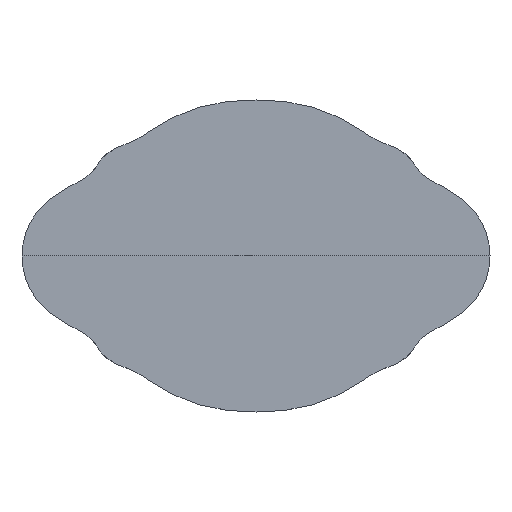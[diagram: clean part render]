
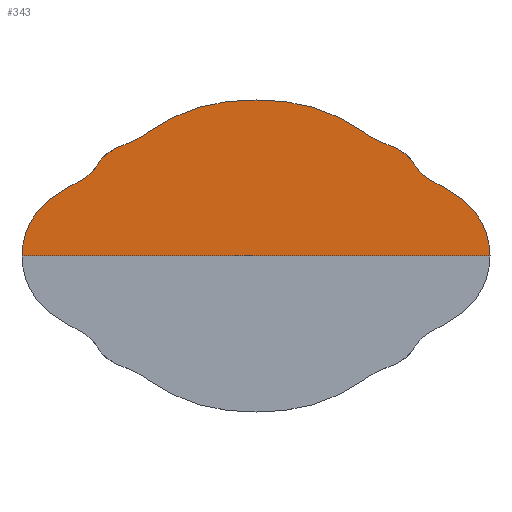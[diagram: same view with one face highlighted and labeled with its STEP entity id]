
A CAD part, top view. The second image highlights one B-rep face of the part: STEP entity #343.
In plain terms, the highlighted planar face has unit normal (0, 0, 1).
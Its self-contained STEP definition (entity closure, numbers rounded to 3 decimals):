
#343=ADVANCED_FACE($,(#661),#4411,.T.);
#661=FACE_OUTER_BOUND($,#987,.T.);
#987=EDGE_LOOP($,(#2589,#2590,#2591,#2592,#2593,#2594,#2595,#2596,#2597,
#2598,#2599,#2600,#2601,#2602,#2603));
#2589=ORIENTED_EDGE($,*,*,#3502,.T.);
#2590=ORIENTED_EDGE($,*,*,#3494,.T.);
#2591=ORIENTED_EDGE($,*,*,#3491,.F.);
#2592=ORIENTED_EDGE($,*,*,#3488,.T.);
#2593=ORIENTED_EDGE($,*,*,#3485,.F.);
#2594=ORIENTED_EDGE($,*,*,#3482,.T.);
#2595=ORIENTED_EDGE($,*,*,#3479,.T.);
#2596=ORIENTED_EDGE($,*,*,#3476,.T.);
#2597=ORIENTED_EDGE($,*,*,#3473,.T.);
#2598=ORIENTED_EDGE($,*,*,#3470,.F.);
#2599=ORIENTED_EDGE($,*,*,#3467,.T.);
#2600=ORIENTED_EDGE($,*,*,#3464,.F.);
#2601=ORIENTED_EDGE($,*,*,#3461,.T.);
#2602=ORIENTED_EDGE($,*,*,#3459,.T.);
#2603=ORIENTED_EDGE($,*,*,#3498,.F.);
#3459=EDGE_CURVE($,#4040,#4069,#5204,.T.);
#3461=EDGE_CURVE($,#4042,#4040,#5205,.T.);
#3464=EDGE_CURVE($,#4042,#4044,#5207,.T.);
#3467=EDGE_CURVE($,#4046,#4044,#5209,.T.);
#3470=EDGE_CURVE($,#4046,#4048,#5211,.T.);
#3473=EDGE_CURVE($,#4050,#4048,#5213,.T.);
#3476=EDGE_CURVE($,#4052,#4050,#5215,.T.);
#3479=EDGE_CURVE($,#4054,#4052,#5217,.T.);
#3482=EDGE_CURVE($,#4056,#4054,#5219,.T.);
#3485=EDGE_CURVE($,#4056,#4058,#5221,.T.);
#3488=EDGE_CURVE($,#4060,#4058,#5223,.T.);
#3491=EDGE_CURVE($,#4060,#4062,#5225,.T.);
#3494=EDGE_CURVE($,#4064,#4062,#5227,.T.);
#3498=EDGE_CURVE($,#4068,#4069,#4751,.T.);
#3502=EDGE_CURVE($,#4068,#4064,#5231,.T.);
#4040=VERTEX_POINT($,#11572);
#4042=VERTEX_POINT($,#11574);
#4044=VERTEX_POINT($,#11576);
#4046=VERTEX_POINT($,#11578);
#4048=VERTEX_POINT($,#11580);
#4050=VERTEX_POINT($,#11582);
#4052=VERTEX_POINT($,#11584);
#4054=VERTEX_POINT($,#11586);
#4056=VERTEX_POINT($,#11588);
#4058=VERTEX_POINT($,#11590);
#4060=VERTEX_POINT($,#11592);
#4062=VERTEX_POINT($,#11594);
#4064=VERTEX_POINT($,#11596);
#4068=VERTEX_POINT($,#11600);
#4069=VERTEX_POINT($,#11601);
#4411=PLANE($,#5399);
#4751=B_SPLINE_CURVE_WITH_KNOTS($,3,(#11272,#11273,#11274,#11275),.UNSPECIFIED.,
.F.,.F.,(4,4),(0.,1499.553),.UNSPECIFIED.);
#5204=(
BOUNDED_CURVE()
B_SPLINE_CURVE(2,(#11166,#11167,#11168),.UNSPECIFIED.,.F.,.F.)
B_SPLINE_CURVE_WITH_KNOTS((3,3),(0.,216.137),.UNSPECIFIED.)
CURVE()
GEOMETRIC_REPRESENTATION_ITEM()
RATIONAL_B_SPLINE_CURVE((1.,0.892,1.))
REPRESENTATION_ITEM($)
);
#5205=(
BOUNDED_CURVE()
B_SPLINE_CURVE(2,(#11171,#11172,#11173),.UNSPECIFIED.,.F.,.F.)
B_SPLINE_CURVE_WITH_KNOTS((3,3),(0.,108.246),.UNSPECIFIED.)
CURVE()
GEOMETRIC_REPRESENTATION_ITEM()
RATIONAL_B_SPLINE_CURVE((1.,0.995,1.))
REPRESENTATION_ITEM($)
);
#5207=(
BOUNDED_CURVE()
B_SPLINE_CURVE(2,(#11179,#11180,#11181),.UNSPECIFIED.,.F.,.F.)
B_SPLINE_CURVE_WITH_KNOTS((3,3),(-70.899,0.),.UNSPECIFIED.)
CURVE()
GEOMETRIC_REPRESENTATION_ITEM()
RATIONAL_B_SPLINE_CURVE((1.,0.957,1.))
REPRESENTATION_ITEM($)
);
#5209=(
BOUNDED_CURVE()
B_SPLINE_CURVE(2,(#11187,#11188,#11189),.UNSPECIFIED.,.F.,.F.)
B_SPLINE_CURVE_WITH_KNOTS((3,3),(0.,106.787),.UNSPECIFIED.)
CURVE()
GEOMETRIC_REPRESENTATION_ITEM()
RATIONAL_B_SPLINE_CURVE((1.,0.937,1.))
REPRESENTATION_ITEM($)
);
#5211=(
BOUNDED_CURVE()
B_SPLINE_CURVE(2,(#11195,#11196,#11197),.UNSPECIFIED.,.F.,.F.)
B_SPLINE_CURVE_WITH_KNOTS((3,3),(-96.103,0.),.UNSPECIFIED.)
CURVE()
GEOMETRIC_REPRESENTATION_ITEM()
RATIONAL_B_SPLINE_CURVE((1.,0.988,1.))
REPRESENTATION_ITEM($)
);
#5213=(
BOUNDED_CURVE()
B_SPLINE_CURVE(2,(#11203,#11204,#11205),.UNSPECIFIED.,.F.,.F.)
B_SPLINE_CURVE_WITH_KNOTS((3,3),(0.,273.602),.UNSPECIFIED.)
CURVE()
GEOMETRIC_REPRESENTATION_ITEM()
RATIONAL_B_SPLINE_CURVE((1.,0.967,1.))
REPRESENTATION_ITEM($)
);
#5215=(
BOUNDED_CURVE()
B_SPLINE_CURVE(2,(#11211,#11212,#11213),.UNSPECIFIED.,.F.,.F.)
B_SPLINE_CURVE_WITH_KNOTS((3,3),(0.,92.202),.UNSPECIFIED.)
CURVE()
GEOMETRIC_REPRESENTATION_ITEM()
RATIONAL_B_SPLINE_CURVE((1.,0.998,1.))
REPRESENTATION_ITEM($)
);
#5217=(
BOUNDED_CURVE()
B_SPLINE_CURVE(2,(#11219,#11220,#11221),.UNSPECIFIED.,.F.,.F.)
B_SPLINE_CURVE_WITH_KNOTS((3,3),(0.,92.202),.UNSPECIFIED.)
CURVE()
GEOMETRIC_REPRESENTATION_ITEM()
RATIONAL_B_SPLINE_CURVE((1.,0.998,1.))
REPRESENTATION_ITEM($)
);
#5219=(
BOUNDED_CURVE()
B_SPLINE_CURVE(2,(#11227,#11228,#11229),.UNSPECIFIED.,.F.,.F.)
B_SPLINE_CURVE_WITH_KNOTS((3,3),(0.,273.602),.UNSPECIFIED.)
CURVE()
GEOMETRIC_REPRESENTATION_ITEM()
RATIONAL_B_SPLINE_CURVE((1.,0.967,1.))
REPRESENTATION_ITEM($)
);
#5221=(
BOUNDED_CURVE()
B_SPLINE_CURVE(2,(#11235,#11236,#11237),.UNSPECIFIED.,.F.,.F.)
B_SPLINE_CURVE_WITH_KNOTS((3,3),(-96.103,0.),.UNSPECIFIED.)
CURVE()
GEOMETRIC_REPRESENTATION_ITEM()
RATIONAL_B_SPLINE_CURVE((1.,0.988,1.))
REPRESENTATION_ITEM($)
);
#5223=(
BOUNDED_CURVE()
B_SPLINE_CURVE(2,(#11243,#11244,#11245),.UNSPECIFIED.,.F.,.F.)
B_SPLINE_CURVE_WITH_KNOTS((3,3),(0.,106.787),.UNSPECIFIED.)
CURVE()
GEOMETRIC_REPRESENTATION_ITEM()
RATIONAL_B_SPLINE_CURVE((1.,0.937,1.))
REPRESENTATION_ITEM($)
);
#5225=(
BOUNDED_CURVE()
B_SPLINE_CURVE(2,(#11251,#11252,#11253),.UNSPECIFIED.,.F.,.F.)
B_SPLINE_CURVE_WITH_KNOTS((3,3),(-70.899,0.),.UNSPECIFIED.)
CURVE()
GEOMETRIC_REPRESENTATION_ITEM()
RATIONAL_B_SPLINE_CURVE((1.,0.957,1.))
REPRESENTATION_ITEM($)
);
#5227=(
BOUNDED_CURVE()
B_SPLINE_CURVE(2,(#11259,#11260,#11261),.UNSPECIFIED.,.F.,.F.)
B_SPLINE_CURVE_WITH_KNOTS((3,3),(0.,108.246),.UNSPECIFIED.)
CURVE()
GEOMETRIC_REPRESENTATION_ITEM()
RATIONAL_B_SPLINE_CURVE((1.,0.995,1.))
REPRESENTATION_ITEM($)
);
#5231=(
BOUNDED_CURVE()
B_SPLINE_CURVE(2,(#11287,#11288,#11289),.UNSPECIFIED.,.F.,.F.)
B_SPLINE_CURVE_WITH_KNOTS((3,3),(6.001,222.138),.UNSPECIFIED.)
CURVE()
GEOMETRIC_REPRESENTATION_ITEM()
RATIONAL_B_SPLINE_CURVE((1.,0.892,1.))
REPRESENTATION_ITEM($)
);
#5399=AXIS2_PLACEMENT_3D($,#11473,#5456,$);
#5456=DIRECTION($,(0.,0.,1.));
#11166=CARTESIAN_POINT($,(-762.068,249.355,510.689));
#11167=CARTESIAN_POINT($,(-856.216,180.302,510.689));
#11168=CARTESIAN_POINT($,(-856.216,63.545,510.689));
#11171=CARTESIAN_POINT($,(-669.235,304.708,510.689));
#11172=CARTESIAN_POINT($,(-718.293,281.462,510.689));
#11173=CARTESIAN_POINT($,(-762.068,249.355,510.689));
#11179=CARTESIAN_POINT($,(-669.235,304.708,510.689));
#11180=CARTESIAN_POINT($,(-636.234,320.345,510.689));
#11181=CARTESIAN_POINT($,(-617.538,351.715,510.689));
#11187=CARTESIAN_POINT($,(-536.073,417.239,510.689));
#11188=CARTESIAN_POINT($,(-588.987,399.621,510.689));
#11189=CARTESIAN_POINT($,(-617.538,351.715,510.689));
#11195=CARTESIAN_POINT($,(-536.073,417.239,510.689));
#11196=CARTESIAN_POINT($,(-490.128,432.537,510.689));
#11197=CARTESIAN_POINT($,(-450.874,460.894,510.689));
#11203=CARTESIAN_POINT($,(-198.45,558.396,510.689));
#11204=CARTESIAN_POINT($,(-337.474,542.815,510.689));
#11205=CARTESIAN_POINT($,(-450.874,460.894,510.689));
#11211=CARTESIAN_POINT($,(-106.44,563.548,510.689));
#11212=CARTESIAN_POINT($,(-152.588,563.535,510.689));
#11213=CARTESIAN_POINT($,(-198.45,558.396,510.689));
#11219=CARTESIAN_POINT($,(-14.43,558.396,510.689));
#11220=CARTESIAN_POINT($,(-60.291,563.535,510.689));
#11221=CARTESIAN_POINT($,(-106.44,563.548,510.689));
#11227=CARTESIAN_POINT($,(237.995,460.894,510.689));
#11228=CARTESIAN_POINT($,(124.595,542.815,510.689));
#11229=CARTESIAN_POINT($,(-14.43,558.396,510.689));
#11235=CARTESIAN_POINT($,(237.995,460.894,510.689));
#11236=CARTESIAN_POINT($,(277.249,432.537,510.689));
#11237=CARTESIAN_POINT($,(323.194,417.239,510.689));
#11243=CARTESIAN_POINT($,(404.659,351.715,510.689));
#11244=CARTESIAN_POINT($,(376.107,399.621,510.689));
#11245=CARTESIAN_POINT($,(323.194,417.239,510.689));
#11251=CARTESIAN_POINT($,(404.659,351.715,510.689));
#11252=CARTESIAN_POINT($,(423.355,320.345,510.689));
#11253=CARTESIAN_POINT($,(456.356,304.708,510.689));
#11259=CARTESIAN_POINT($,(549.189,249.355,510.689));
#11260=CARTESIAN_POINT($,(505.414,281.462,510.689));
#11261=CARTESIAN_POINT($,(456.356,304.708,510.689));
#11272=CARTESIAN_POINT($,(643.337,63.545,510.689));
#11273=CARTESIAN_POINT($,(143.486,63.545,510.689));
#11274=CARTESIAN_POINT($,(-356.365,63.545,510.689));
#11275=CARTESIAN_POINT($,(-856.216,63.545,510.689));
#11287=CARTESIAN_POINT($,(643.337,63.545,510.689));
#11288=CARTESIAN_POINT($,(643.337,180.302,510.689));
#11289=CARTESIAN_POINT($,(549.189,249.355,510.689));
#11473=CARTESIAN_POINT($,(-856.216,63.545,510.689));
#11572=CARTESIAN_POINT($,(-762.068,249.355,510.689));
#11574=CARTESIAN_POINT($,(-669.235,304.708,510.689));
#11576=CARTESIAN_POINT($,(-617.538,351.715,510.689));
#11578=CARTESIAN_POINT($,(-536.073,417.239,510.689));
#11580=CARTESIAN_POINT($,(-450.874,460.894,510.689));
#11582=CARTESIAN_POINT($,(-198.45,558.396,510.689));
#11584=CARTESIAN_POINT($,(-106.44,563.548,510.689));
#11586=CARTESIAN_POINT($,(-14.43,558.396,510.689));
#11588=CARTESIAN_POINT($,(237.995,460.894,510.689));
#11590=CARTESIAN_POINT($,(323.194,417.239,510.689));
#11592=CARTESIAN_POINT($,(404.659,351.715,510.689));
#11594=CARTESIAN_POINT($,(456.356,304.708,510.689));
#11596=CARTESIAN_POINT($,(549.189,249.355,510.689));
#11600=CARTESIAN_POINT($,(643.337,63.545,510.689));
#11601=CARTESIAN_POINT($,(-856.216,63.545,510.689));
